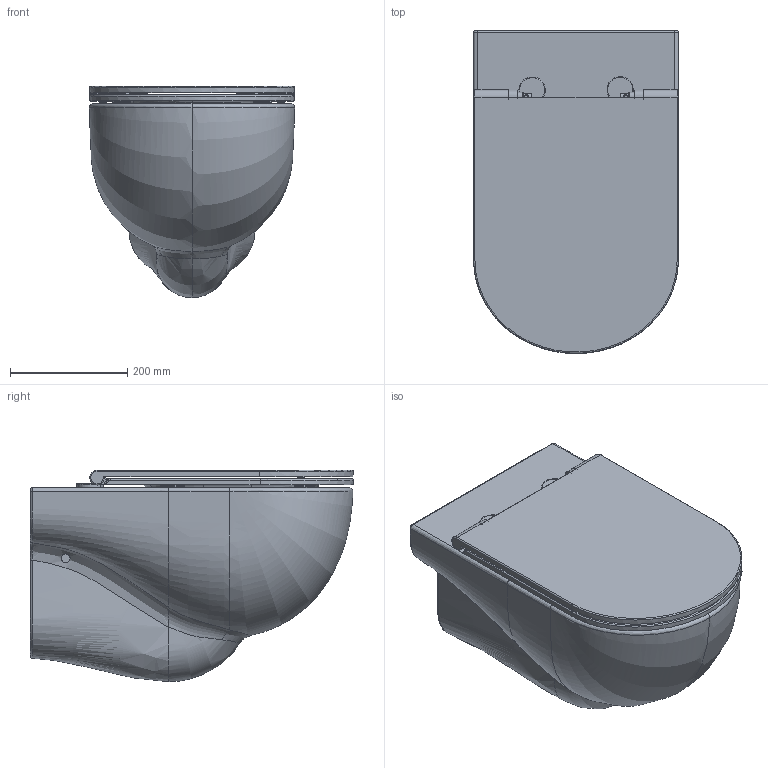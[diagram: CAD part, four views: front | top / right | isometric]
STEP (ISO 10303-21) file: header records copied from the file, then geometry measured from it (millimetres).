
FILE_DESCRIPTION (( 'STEP AP203' ), '1' );
FILE_NAME ('NUVKSP000000.STEP', '2019-07-01T10:32:01', ( '' ), ( '' ), 'SwSTEP 2.0', 'SolidWorks 2019', '' );
FILE_SCHEMA (( 'CONFIG_CONTROL_DESIGN' ));
Length unit declared in the file: millimetre
Products named in the file (7): NUV100_SOSK; NUVKSP000000; AssiemeNUV1818_F; Parte cernieraPIASTRA; CPWR NUV1818_F COPERCHIO; Parte cernieraSNODO; CPWR NUV1818_F CIAMBELLA
Assembly tree (8 placements, depth 3):
  NUVKSP000000
    NUV100_SOSK
    AssiemeNUV1818_F
      CPWR NUV1818_F CIAMBELLA
      CPWR NUV1818_F COPERCHIO
      Parte cernieraSNODO  x2
      Parte cernieraPIASTRA  x2
Bounding box: 349.81 x 550.88 x 360.35 mm (x, y, z)
Volume: 25397881.3 mm3; surface area: 1397679.2 mm2
Topology: 7 solids, 7 shells, 410 faces, 994 edges, 622 vertices
Faces by surface type: cylinder 146, plane 100, bspline 84, torus 76, cone 2, sphere 2
Entity records: 187142 total; most frequent: CARTESIAN_POINT 177936, ORIENTED_EDGE 1854, DIRECTION 1673, EDGE_CURVE 927, AXIS2_PLACEMENT_3D 691, VERTEX_POINT 581, EDGE_LOOP 408, CIRCLE 385
